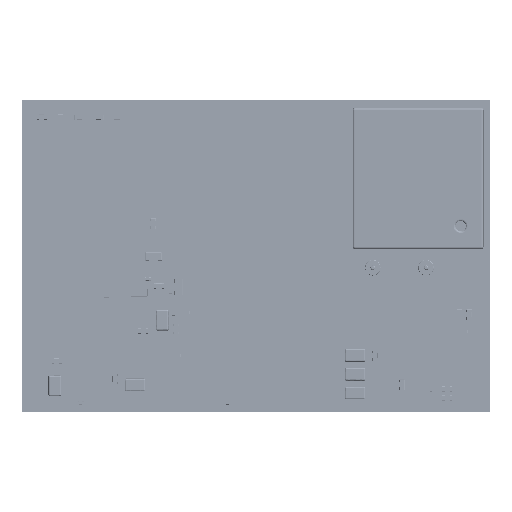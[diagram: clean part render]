
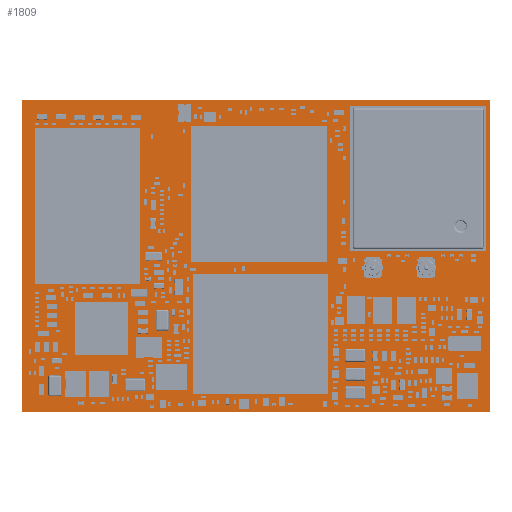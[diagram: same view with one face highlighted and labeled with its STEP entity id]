
A CAD part, top view. The second image highlights one B-rep face of the part: STEP entity #1809.
In plain terms, the highlighted planar face has unit normal (0, 0, 1).
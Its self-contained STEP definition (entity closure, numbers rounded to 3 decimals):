
#1680 = VERTEX_POINT('',#1681);
#1681 = CARTESIAN_POINT('',(0.,0.,1.263));
#1687 = EDGE_CURVE('',#1680,#1688,#1690,.T.);
#1688 = VERTEX_POINT('',#1689);
#1689 = CARTESIAN_POINT('',(0.,29.997,1.263));
#1690 = LINE('',#1691,#1692);
#1691 = CARTESIAN_POINT('',(0.,0.,1.263));
#1692 = VECTOR('',#1693,1.);
#1693 = DIRECTION('',(0.,1.,0.));
#1718 = EDGE_CURVE('',#1688,#1719,#1721,.T.);
#1719 = VERTEX_POINT('',#1720);
#1720 = CARTESIAN_POINT('',(45.,29.997,1.263));
#1721 = LINE('',#1722,#1723);
#1722 = CARTESIAN_POINT('',(0.,29.997,1.263));
#1723 = VECTOR('',#1724,1.);
#1724 = DIRECTION('',(1.,0.,0.));
#1749 = EDGE_CURVE('',#1719,#1750,#1752,.T.);
#1750 = VERTEX_POINT('',#1751);
#1751 = CARTESIAN_POINT('',(45.,0.,1.263));
#1752 = LINE('',#1753,#1754);
#1753 = CARTESIAN_POINT('',(45.,29.997,1.263));
#1754 = VECTOR('',#1755,1.);
#1755 = DIRECTION('',(0.,-1.,0.));
#1780 = EDGE_CURVE('',#1750,#1680,#1781,.T.);
#1781 = LINE('',#1782,#1783);
#1782 = CARTESIAN_POINT('',(45.,0.,1.263));
#1783 = VECTOR('',#1784,1.);
#1784 = DIRECTION('',(-1.,0.,0.));
#1809 = ADVANCED_FACE('',(#1810),#1816,.F.);
#1810 = FACE_BOUND('',#1811,.F.);
#1811 = EDGE_LOOP('',(#1812,#1813,#1814,#1815));
#1812 = ORIENTED_EDGE('',*,*,#1687,.T.);
#1813 = ORIENTED_EDGE('',*,*,#1718,.T.);
#1814 = ORIENTED_EDGE('',*,*,#1749,.T.);
#1815 = ORIENTED_EDGE('',*,*,#1780,.T.);
#1816 = PLANE('',#1817);
#1817 = AXIS2_PLACEMENT_3D('',#1818,#1819,#1820);
#1818 = CARTESIAN_POINT('',(22.5,14.999,1.263));
#1819 = DIRECTION('',(-0.,-0.,-1.));
#1820 = DIRECTION('',(-1.,0.,0.));
